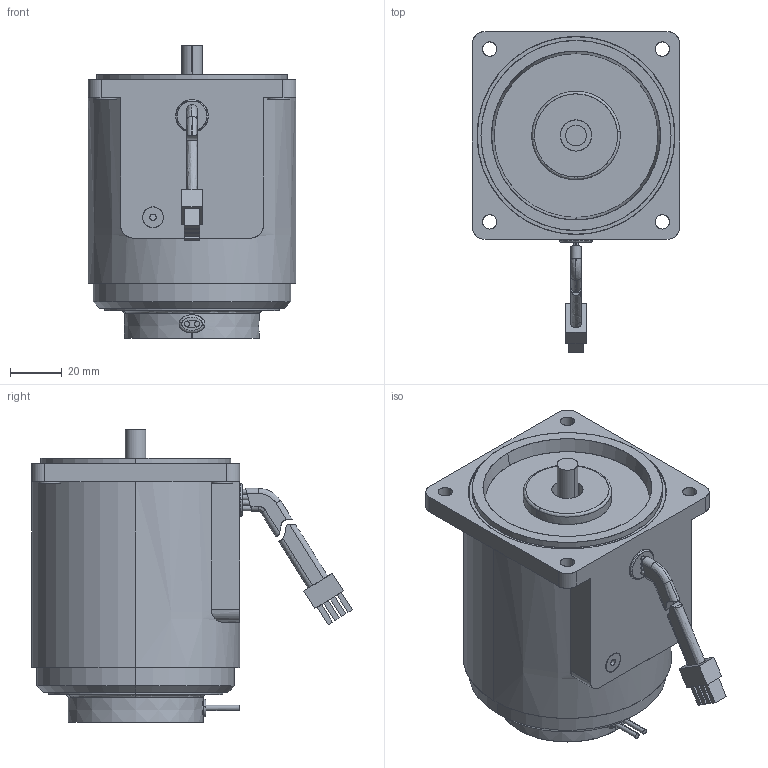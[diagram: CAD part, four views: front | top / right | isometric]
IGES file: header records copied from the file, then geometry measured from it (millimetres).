
Start section: SolidWorks IGES file using analytic representation for surfaces
Global section: file name: \\楷备家烹钦辑滚\data (D)\档搁 枚\权其捞瘤 档搁\7. SPEED INDUCTION\80\15W\(7-19) 8SDG∴-15W.IGS; native system: SolidWorks 2007; preprocessor: SolidWorks 2007; author: user; date: 150702.142544; units: millimetre
Bounding box: 80 x 123.4 x 112.5 mm (x, y, z)
Surface area: 87148.3 mm2 (no closed solid volume)
Topology: 0 solids, 0 shells, 237 faces, 4829 edges, 4829 vertices
Faces by surface type: bspline 145, revolution 92
